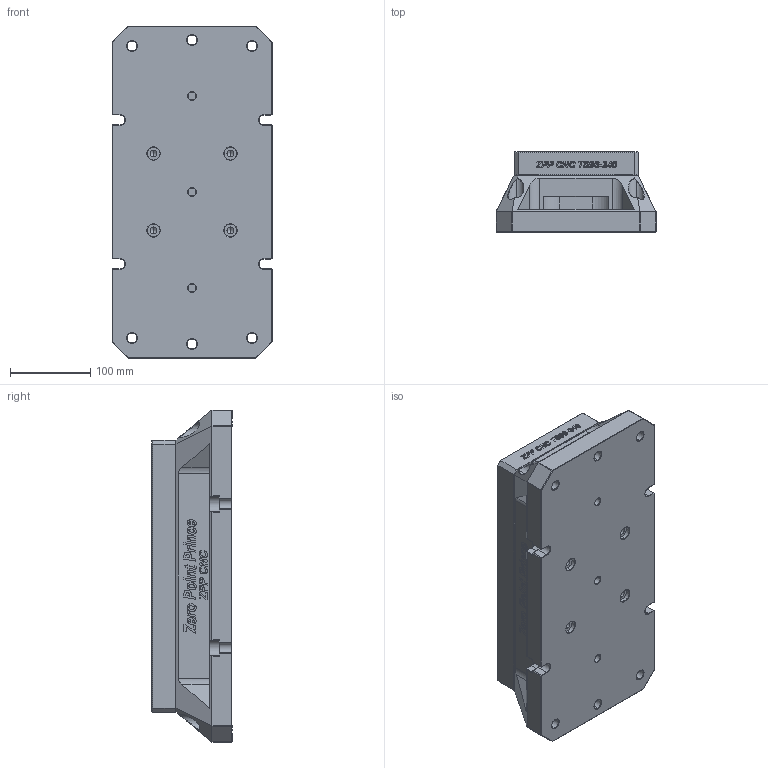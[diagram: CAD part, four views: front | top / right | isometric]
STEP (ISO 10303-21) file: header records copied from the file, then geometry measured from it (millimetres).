
FILE_DESCRIPTION((''),'2;1');
FILE_NAME('TS96-340BS_ASM','2025-10-14T14:03:34',('XF'),(''),'CREO PARAMETRIC BY PTC INC, 2023073','CREO PARAMETRIC BY PTC INC, 2023073','');
FILE_SCHEMA(('CONFIG_CONTROL_DESIGN'));
Products named in the file (3): TS96-340; TS96-340DZ; TS96-340BS_ASM
Assembly tree (2 placements, depth 2):
  TS96-340BS_ASM
    TS96-340
    TS96-340DZ
Bounding box: 200 x 100 x 415 mm (x, y, z)
Volume: 6065384.5 mm3; surface area: 415709.5 mm2
Topology: 2 solids, 20 shells, 2024 faces, 5484 edges, 3598 vertices
Faces by surface type: extrusion 806, plane 766, cylinder 252, cone 164, bspline 20, torus 16
Entity records: 67668 total; most frequent: CARTESIAN_POINT 19563, ORIENTED_EDGE 10808, DIRECTION 7662, EDGE_CURVE 5440, VECTOR 3776, VERTEX_POINT 3598, LINE 2970, B_SPLINE_CURVE_WITH_KNOTS 2540
